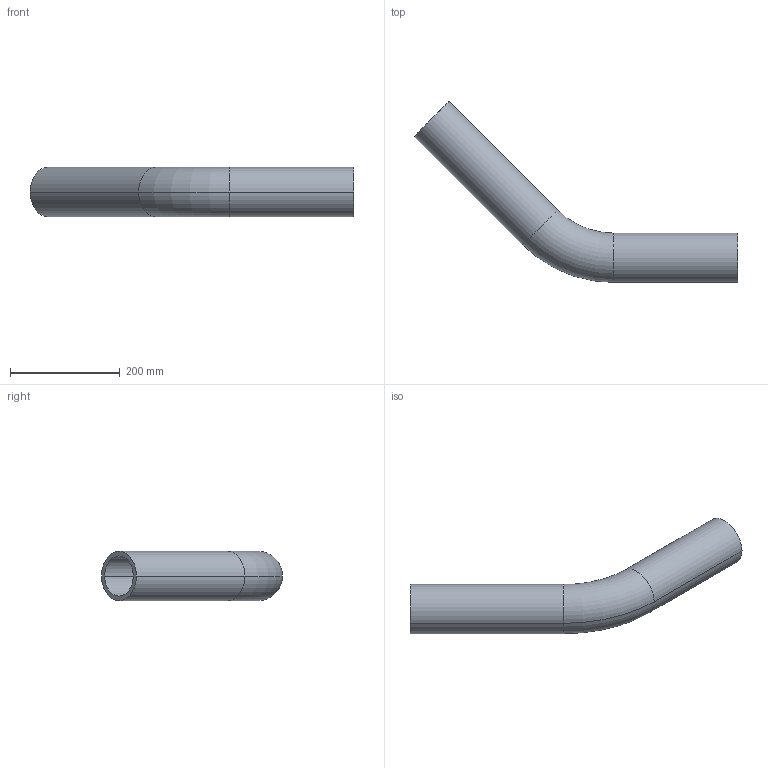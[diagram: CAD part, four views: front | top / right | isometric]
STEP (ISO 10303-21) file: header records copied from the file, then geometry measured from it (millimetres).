
FILE_DESCRIPTION (( 'STEP AP203' ), '1' );
FILE_NAME ('KP_4-90F.step', '2011-08-08T11:40:40', ( '' ), ( '' ), 'SwSTEP 2.0', 'SolidWorks 2011', '' );
FILE_SCHEMA (( 'CONFIG_CONTROL_DESIGN' ));
Length unit declared in the file: millimetre
Products named in the file (1): KP_4-90F
Bounding box: 590 x 330 x 90 mm (x, y, z)
Volume: 1395202.4 mm3; surface area: 340454 mm2
Topology: 1 solids, 1 shells, 14 faces, 28 edges, 16 vertices
Faces by surface type: cylinder 8, torus 4, plane 2
Entity records: 449 total; most frequent: DIRECTION 78, CARTESIAN_POINT 59, ORIENTED_EDGE 56, AXIS2_PLACEMENT_3D 35, EDGE_CURVE 28, CIRCLE 20, EDGE_LOOP 16, VERTEX_POINT 16
